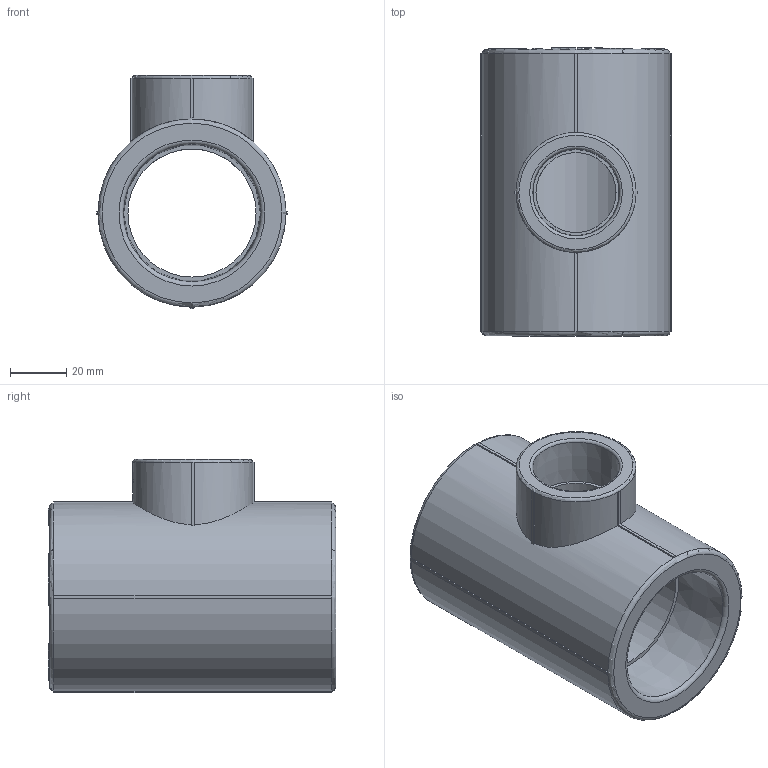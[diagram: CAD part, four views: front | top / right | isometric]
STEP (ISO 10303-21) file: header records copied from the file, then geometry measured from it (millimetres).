
FILE_DESCRIPTION(('STEP AP203'), '1');
FILE_NAME('ÂÐ.752241.065 - VTp.735.0.050032050', '', ('UNSPECIFIED'), ('UNSPECIFIED'), 'C3D Converter', 'C3D Toolkit', '');
FILE_SCHEMA(('CONFIG_CONTROL_DESIGN'));
Length unit declared in the file: millimetre
Products named in the file (1): ВР.752241.065
Bounding box: 68 x 102.5 x 83 mm (x, y, z)
Volume: 187077.7 mm3; surface area: 44223.4 mm2
Topology: 1 solids, 1 shells, 1124 faces, 3158 edges, 2097 vertices
Faces by surface type: extrusion 665, plane 415, cylinder 35, torus 6, cone 3
Full cylindrical faces by diameter (mm): 6 x1, 28.5 x1, 45.6 x1
Entity records: 41560 total; most frequent: CARTESIAN_POINT 16018, ORIENTED_EDGE 6292, DIRECTION 3149, EDGE_CURVE 3146, VECTOR 2139, VERTEX_POINT 2097, B_SPLINE_CURVE_WITH_KNOTS 2001, LINE 1474
